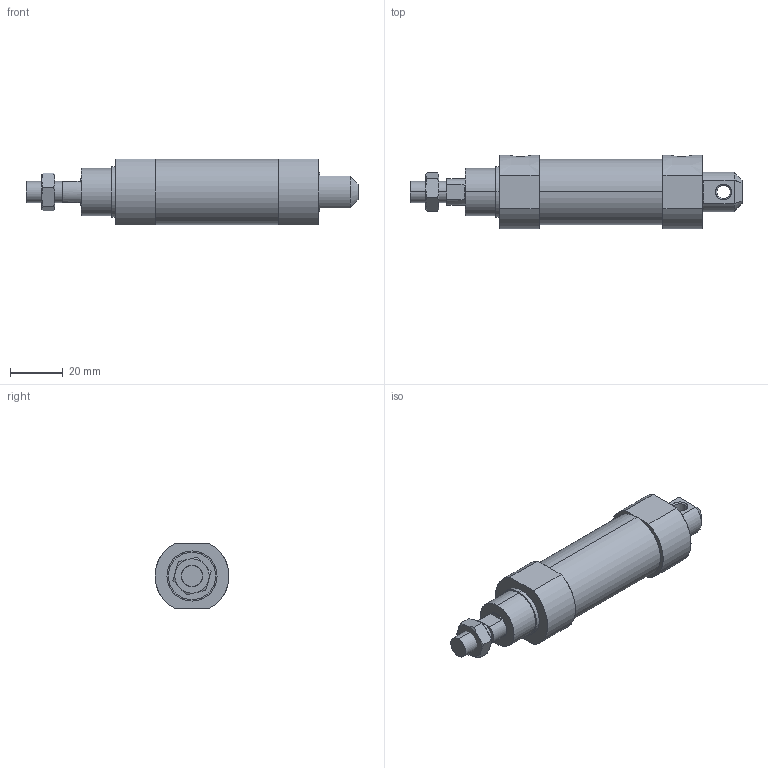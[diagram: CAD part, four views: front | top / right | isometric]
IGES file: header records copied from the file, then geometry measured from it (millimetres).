
Start section: SolidWorks IGES file using analytic representation for surfaces
Global section: file name: C:\Users\Toshiba\Desktop\J#2-20-15-C.IGS; native system: SolidWorks 2014; preprocessor: SolidWorks 2014; author: Toshiba; date: 160308.145156; units: millimetre
Bounding box: 126 x 28 x 25 mm (x, y, z)
Surface area: 10982.8 mm2 (no closed solid volume)
Topology: 0 solids, 0 shells, 78 faces, 1284 edges, 1284 vertices
Faces by surface type: bspline 48, revolution 30
